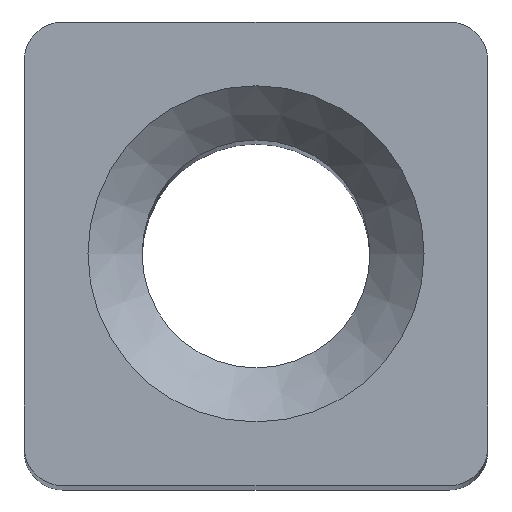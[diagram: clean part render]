
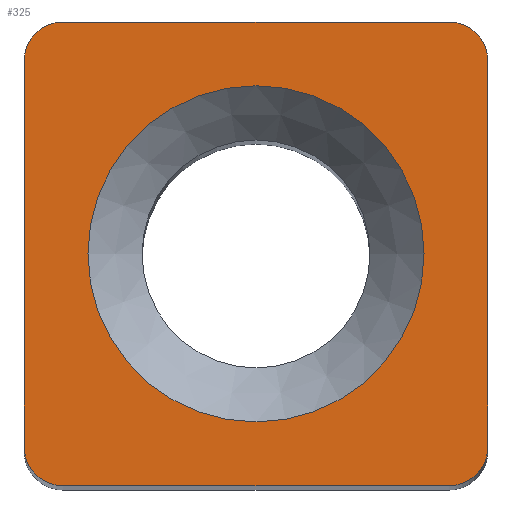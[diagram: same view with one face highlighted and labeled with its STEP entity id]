
A CAD part, top view. The second image highlights one B-rep face of the part: STEP entity #325.
In plain terms, the highlighted planar face has unit normal (0, 0, 1).
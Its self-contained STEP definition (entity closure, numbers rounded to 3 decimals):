
#110 = VERTEX_POINT('',#111);
#111 = CARTESIAN_POINT('',(-2.5,-3.,32.));
#117 = EDGE_CURVE('',#110,#118,#120,.T.);
#118 = VERTEX_POINT('',#119);
#119 = CARTESIAN_POINT('',(2.5,-3.,32.));
#120 = LINE('',#121,#122);
#121 = CARTESIAN_POINT('',(-3.,-3.,32.));
#122 = VECTOR('',#123,1.);
#123 = DIRECTION('',(1.,0.,0.));
#141 = VERTEX_POINT('',#142);
#142 = CARTESIAN_POINT('',(-3.,-2.5,32.));
#148 = EDGE_CURVE('',#110,#141,#149,.T.);
#149 = CIRCLE('',#150,0.5);
#150 = AXIS2_PLACEMENT_3D('',#151,#152,#153);
#151 = CARTESIAN_POINT('',(-2.5,-2.5,32.));
#152 = DIRECTION('',(-0.,-0.,-1.));
#153 = DIRECTION('',(0.,-1.,0.));
#166 = VERTEX_POINT('',#167);
#167 = CARTESIAN_POINT('',(3.,-2.5,32.));
#173 = EDGE_CURVE('',#118,#166,#174,.T.);
#174 = CIRCLE('',#175,0.5);
#175 = AXIS2_PLACEMENT_3D('',#176,#177,#178);
#176 = CARTESIAN_POINT('',(2.5,-2.5,32.));
#177 = DIRECTION('',(-0.,0.,1.));
#178 = DIRECTION('',(0.,-1.,0.));
#191 = VERTEX_POINT('',#192);
#192 = CARTESIAN_POINT('',(-3.,2.5,32.));
#198 = EDGE_CURVE('',#191,#141,#199,.T.);
#199 = LINE('',#200,#201);
#200 = CARTESIAN_POINT('',(-3.,3.,32.));
#201 = VECTOR('',#202,1.);
#202 = DIRECTION('',(0.,-1.,0.));
#215 = EDGE_CURVE('',#166,#216,#218,.T.);
#216 = VERTEX_POINT('',#217);
#217 = CARTESIAN_POINT('',(3.,2.5,32.));
#218 = LINE('',#219,#220);
#219 = CARTESIAN_POINT('',(3.,-3.,32.));
#220 = VECTOR('',#221,1.);
#221 = DIRECTION('',(0.,1.,0.));
#239 = EDGE_CURVE('',#240,#191,#242,.T.);
#240 = VERTEX_POINT('',#241);
#241 = CARTESIAN_POINT('',(-2.5,3.,32.));
#242 = CIRCLE('',#243,0.5);
#243 = AXIS2_PLACEMENT_3D('',#244,#245,#246);
#244 = CARTESIAN_POINT('',(-2.5,2.5,32.));
#245 = DIRECTION('',(-0.,0.,1.));
#246 = DIRECTION('',(0.,-1.,0.));
#264 = VERTEX_POINT('',#265);
#265 = CARTESIAN_POINT('',(2.5,3.,32.));
#271 = EDGE_CURVE('',#216,#264,#272,.T.);
#272 = CIRCLE('',#273,0.5);
#273 = AXIS2_PLACEMENT_3D('',#274,#275,#276);
#274 = CARTESIAN_POINT('',(2.5,2.5,32.));
#275 = DIRECTION('',(-0.,0.,1.));
#276 = DIRECTION('',(0.,-1.,0.));
#289 = EDGE_CURVE('',#264,#240,#290,.T.);
#290 = LINE('',#291,#292);
#291 = CARTESIAN_POINT('',(3.,3.,32.));
#292 = VECTOR('',#293,1.);
#293 = DIRECTION('',(-1.,0.,0.));
#325 = ADVANCED_FACE('',(#326,#336),#347,.T.);
#326 = FACE_BOUND('',#327,.T.);
#327 = EDGE_LOOP('',(#328,#329,#330,#331,#332,#333,#334,#335));
#328 = ORIENTED_EDGE('',*,*,#117,.T.);
#329 = ORIENTED_EDGE('',*,*,#173,.T.);
#330 = ORIENTED_EDGE('',*,*,#215,.T.);
#331 = ORIENTED_EDGE('',*,*,#271,.T.);
#332 = ORIENTED_EDGE('',*,*,#289,.T.);
#333 = ORIENTED_EDGE('',*,*,#239,.T.);
#334 = ORIENTED_EDGE('',*,*,#198,.T.);
#335 = ORIENTED_EDGE('',*,*,#148,.F.);
#336 = FACE_BOUND('',#337,.T.);
#337 = EDGE_LOOP('',(#338));
#338 = ORIENTED_EDGE('',*,*,#339,.F.);
#339 = EDGE_CURVE('',#340,#340,#342,.T.);
#340 = VERTEX_POINT('',#341);
#341 = CARTESIAN_POINT('',(2.175,0.,32.));
#342 = CIRCLE('',#343,2.175);
#343 = AXIS2_PLACEMENT_3D('',#344,#345,#346);
#344 = CARTESIAN_POINT('',(0.,0.,32.));
#345 = DIRECTION('',(0.,0.,1.));
#346 = DIRECTION('',(1.,0.,0.));
#347 = PLANE('',#348);
#348 = AXIS2_PLACEMENT_3D('',#349,#350,#351);
#349 = CARTESIAN_POINT('',(0.,0.,32.));
#350 = DIRECTION('',(0.,0.,1.));
#351 = DIRECTION('',(1.,0.,0.));
